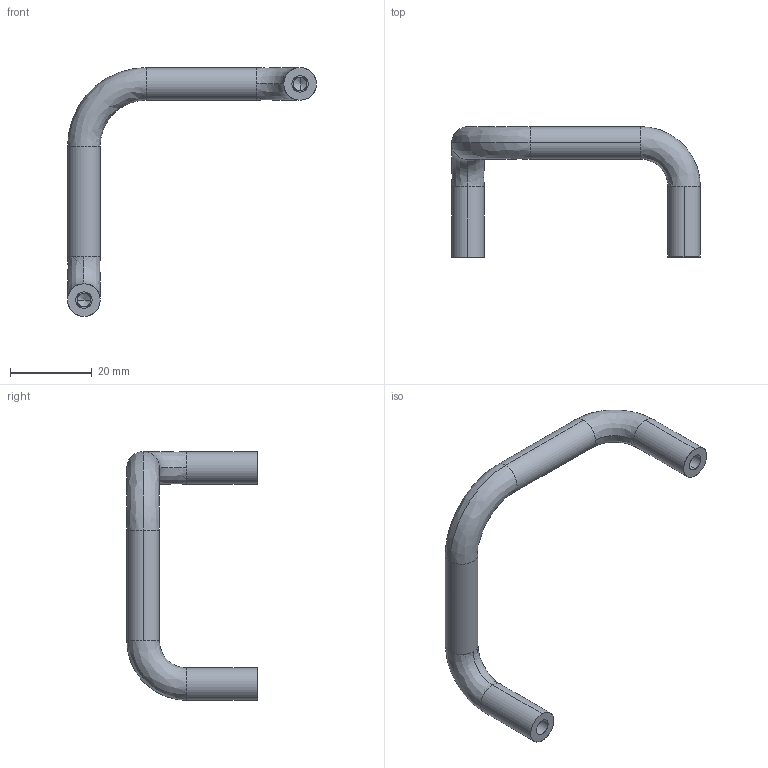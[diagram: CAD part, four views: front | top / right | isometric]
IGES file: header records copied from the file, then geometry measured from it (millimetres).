
Start section: SolidWorks IGES file using analytic representation for surfaces
Global section: file name: C:\Users\IanO\Desktop\Temp File\Process pending\78770_v2\78770_v2_20171022_IGES\78770.W0075.igs; native system: SolidWorks 2017; preprocessor: SolidWorks 2017; author: IanO; date: 171206.115643; units: millimetre
Bounding box: 61.03 x 32 x 61.03 mm (x, y, z)
Surface area: 4005.7 mm2 (no closed solid volume)
Topology: 0 solids, 0 shells, 30 faces, 372 edges, 368 vertices
Faces by surface type: revolution 20, bspline 10
